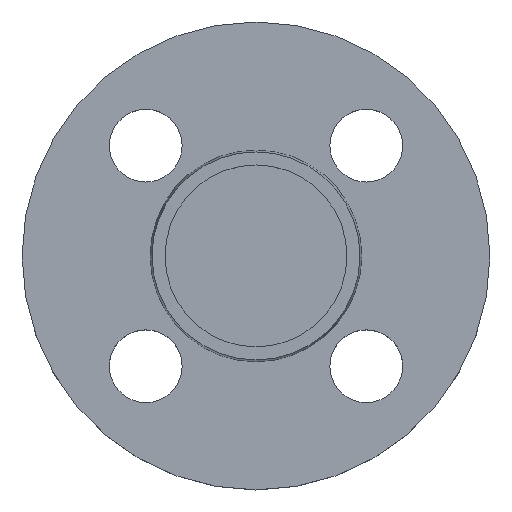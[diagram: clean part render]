
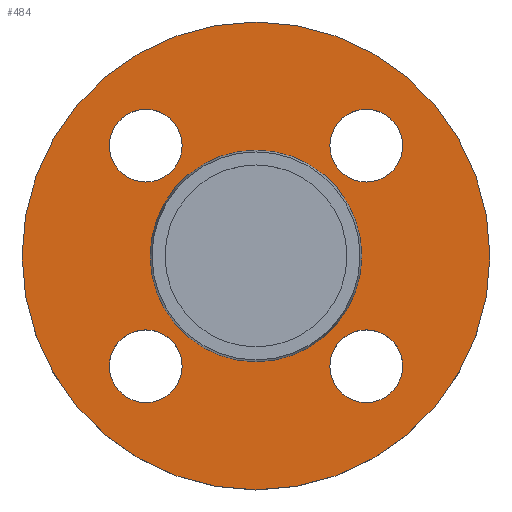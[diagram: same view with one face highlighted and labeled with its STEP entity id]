
A CAD part, top view. The second image highlights one B-rep face of the part: STEP entity #484.
In plain terms, the highlighted planar face has unit normal (0, 0, 1).
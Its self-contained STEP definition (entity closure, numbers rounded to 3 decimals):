
#1 = CIRCLE ( 'NONE', #7, 20.353 ) ;
#3 = EDGE_CURVE ( 'NONE', #359, #464, #243, .T. ) ;
#4 = CIRCLE ( 'NONE', #238, 7. ) ;
#7 = AXIS2_PLACEMENT_3D ( 'NONE', #614, #616, #617 ) ;
#17 = CIRCLE ( 'NONE', #202, 7. ) ;
#42 = DIRECTION ( 'NONE',  ( 1., 0., 0. ) ) ;
#45 = CARTESIAN_POINT ( 'NONE',  ( 21.213, -21.213, -2. ) ) ;
#51 = CARTESIAN_POINT ( 'NONE',  ( 21.213, 21.213, -2. ) ) ;
#52 = DIRECTION ( 'NONE',  ( 0., 0., -1. ) ) ;
#53 = DIRECTION ( 'NONE',  ( 1., 0., 0. ) ) ;
#54 = DIRECTION ( 'NONE',  ( 0., 0., -1. ) ) ;
#55 = CARTESIAN_POINT ( 'NONE',  ( -21.213, 21.213, -2. ) ) ;
#58 = DIRECTION ( 'NONE',  ( 0., 0., -1. ) ) ;
#60 = DIRECTION ( 'NONE',  ( 1., 0., 0. ) ) ;
#61 = CIRCLE ( 'NONE', #177, 7. ) ;
#77 = AXIS2_PLACEMENT_3D ( 'NONE', #45, #58, #60 ) ;
#87 = EDGE_CURVE ( 'NONE', #536, #380, #61, .T. ) ;
#89 = CARTESIAN_POINT ( 'NONE',  ( 28.213, -21.213, -2. ) ) ;
#92 = CARTESIAN_POINT ( 'NONE',  ( -45., 0., -2. ) ) ;
#93 = DIRECTION ( 'NONE',  ( 0., 0., -1. ) ) ;
#96 = CARTESIAN_POINT ( 'NONE',  ( -14.213, -21.213, -2. ) ) ;
#102 = EDGE_CURVE ( 'NONE', #362, #533, #156, .T. ) ;
#112 = EDGE_CURVE ( 'NONE', #530, #360, #275, .T. ) ;
#114 = FACE_BOUND ( 'NONE', #551, .T. ) ;
#115 = DIRECTION ( 'NONE',  ( 1., 0., 0. ) ) ;
#116 = FACE_BOUND ( 'NONE', #546, .T. ) ;
#118 = FACE_BOUND ( 'NONE', #529, .T. ) ;
#119 = FACE_BOUND ( 'NONE', #369, .T. ) ;
#120 = CIRCLE ( 'NONE', #621, 45. ) ;
#123 = FACE_BOUND ( 'NONE', #539, .T. ) ;
#125 = CARTESIAN_POINT ( 'NONE',  ( 20.353, 0., -2. ) ) ;
#127 = FACE_OUTER_BOUND ( 'NONE', #544, .T. ) ;
#132 = DIRECTION ( 'NONE',  ( 0., 0., 1. ) ) ;
#133 = PLANE ( 'NONE',  #260 ) ;
#135 = CARTESIAN_POINT ( 'NONE',  ( 14.213, 21.213, -2. ) ) ;
#137 = CARTESIAN_POINT ( 'NONE',  ( 0., 0., -2. ) ) ;
#139 = EDGE_CURVE ( 'NONE', #355, #553, #229, .T. ) ;
#141 = DIRECTION ( 'NONE',  ( -1., 0., 0. ) ) ;
#153 = EDGE_CURVE ( 'NONE', #553, #355, #1, .T. ) ;
#156 = CIRCLE ( 'NONE', #373, 45. ) ;
#157 = DIRECTION ( 'NONE',  ( 1., 0., 0. ) ) ;
#158 = AXIS2_PLACEMENT_3D ( 'NONE', #603, #605, #606 ) ;
#170 = EDGE_CURVE ( 'NONE', #360, #530, #463, .T. ) ;
#177 = AXIS2_PLACEMENT_3D ( 'NONE', #583, #584, #585 ) ;
#198 = AXIS2_PLACEMENT_3D ( 'NONE', #554, #555, #556 ) ;
#202 = AXIS2_PLACEMENT_3D ( 'NONE', #51, #52, #42 ) ;
#212 = CIRCLE ( 'NONE', #77, 7. ) ;
#221 = AXIS2_PLACEMENT_3D ( 'NONE', #627, #628, #629 ) ;
#229 = CIRCLE ( 'NONE', #158, 20.353 ) ;
#233 = AXIS2_PLACEMENT_3D ( 'NONE', #593, #594, #595 ) ;
#238 = AXIS2_PLACEMENT_3D ( 'NONE', #727, #728, #157 ) ;
#243 = CIRCLE ( 'NONE', #198, 7. ) ;
#258 = EDGE_CURVE ( 'NONE', #401, #409, #4, .T. ) ;
#260 = AXIS2_PLACEMENT_3D ( 'NONE', #125, #132, #115 ) ;
#266 = EDGE_CURVE ( 'NONE', #380, #536, #212, .T. ) ;
#267 = CARTESIAN_POINT ( 'NONE',  ( 20.353, 0., -2. ) ) ;
#271 = CARTESIAN_POINT ( 'NONE',  ( 28.213, 21.213, -2. ) ) ;
#272 = CARTESIAN_POINT ( 'NONE',  ( -28.213, -21.213, -2. ) ) ;
#274 = AXIS2_PLACEMENT_3D ( 'NONE', #55, #54, #53 ) ;
#275 = CIRCLE ( 'NONE', #233, 7. ) ;
#277 = CARTESIAN_POINT ( 'NONE',  ( 45., 0., -2. ) ) ;
#289 = CARTESIAN_POINT ( 'NONE',  ( 14.213, -21.213, -2. ) ) ;
#302 = CARTESIAN_POINT ( 'NONE',  ( -14.213, 21.213, -2. ) ) ;
#306 = CARTESIAN_POINT ( 'NONE',  ( -28.213, 21.213, -2. ) ) ;
#341 = CARTESIAN_POINT ( 'NONE',  ( -20.353, 0., -2. ) ) ;
#355 = VERTEX_POINT ( 'NONE', #267 ) ;
#359 = VERTEX_POINT ( 'NONE', #271 ) ;
#360 = VERTEX_POINT ( 'NONE', #272 ) ;
#362 = VERTEX_POINT ( 'NONE', #277 ) ;
#369 = EDGE_LOOP ( 'NONE', ( #443, #445 ) ) ;
#373 = AXIS2_PLACEMENT_3D ( 'NONE', #586, #587, #588 ) ;
#380 = VERTEX_POINT ( 'NONE', #289 ) ;
#382 = CIRCLE ( 'NONE', #274, 7. ) ;
#401 = VERTEX_POINT ( 'NONE', #302 ) ;
#409 = VERTEX_POINT ( 'NONE', #306 ) ;
#435 = ORIENTED_EDGE ( 'NONE', *, *, #87, .T. ) ;
#436 = ORIENTED_EDGE ( 'NONE', *, *, #266, .T. ) ;
#437 = ORIENTED_EDGE ( 'NONE', *, *, #112, .T. ) ;
#439 = ORIENTED_EDGE ( 'NONE', *, *, #170, .T. ) ;
#441 = ORIENTED_EDGE ( 'NONE', *, *, #258, .T. ) ;
#442 = ORIENTED_EDGE ( 'NONE', *, *, #693, .T. ) ;
#443 = ORIENTED_EDGE ( 'NONE', *, *, #3, .T. ) ;
#445 = ORIENTED_EDGE ( 'NONE', *, *, #710, .T. ) ;
#446 = ORIENTED_EDGE ( 'NONE', *, *, #153, .T. ) ;
#447 = ORIENTED_EDGE ( 'NONE', *, *, #139, .T. ) ;
#450 = ORIENTED_EDGE ( 'NONE', *, *, #102, .F. ) ;
#451 = ORIENTED_EDGE ( 'NONE', *, *, #519, .F. ) ;
#463 = CIRCLE ( 'NONE', #221, 7. ) ;
#464 = VERTEX_POINT ( 'NONE', #135 ) ;
#484 = ADVANCED_FACE ( 'NONE', ( #118, #123, #116, #119, #114, #127 ), #133, .T. ) ;
#519 = EDGE_CURVE ( 'NONE', #533, #362, #120, .T. ) ;
#529 = EDGE_LOOP ( 'NONE', ( #435, #436 ) ) ;
#530 = VERTEX_POINT ( 'NONE', #96 ) ;
#533 = VERTEX_POINT ( 'NONE', #92 ) ;
#536 = VERTEX_POINT ( 'NONE', #89 ) ;
#539 = EDGE_LOOP ( 'NONE', ( #437, #439 ) ) ;
#544 = EDGE_LOOP ( 'NONE', ( #450, #451 ) ) ;
#546 = EDGE_LOOP ( 'NONE', ( #441, #442 ) ) ;
#551 = EDGE_LOOP ( 'NONE', ( #446, #447 ) ) ;
#553 = VERTEX_POINT ( 'NONE', #341 ) ;
#554 = CARTESIAN_POINT ( 'NONE',  ( 21.213, 21.213, -2. ) ) ;
#555 = DIRECTION ( 'NONE',  ( 0., 0., -1. ) ) ;
#556 = DIRECTION ( 'NONE',  ( 1., 0., 0. ) ) ;
#583 = CARTESIAN_POINT ( 'NONE',  ( 21.213, -21.213, -2. ) ) ;
#584 = DIRECTION ( 'NONE',  ( 0., 0., -1. ) ) ;
#585 = DIRECTION ( 'NONE',  ( 1., 0., 0. ) ) ;
#586 = CARTESIAN_POINT ( 'NONE',  ( 0., 0., -2. ) ) ;
#587 = DIRECTION ( 'NONE',  ( 0., 0., -1. ) ) ;
#588 = DIRECTION ( 'NONE',  ( -1., 0., 0. ) ) ;
#593 = CARTESIAN_POINT ( 'NONE',  ( -21.213, -21.213, -2. ) ) ;
#594 = DIRECTION ( 'NONE',  ( 0., 0., -1. ) ) ;
#595 = DIRECTION ( 'NONE',  ( 1., 0., 0. ) ) ;
#603 = CARTESIAN_POINT ( 'NONE',  ( 0., 0., -2. ) ) ;
#605 = DIRECTION ( 'NONE',  ( 0., 0., -1. ) ) ;
#606 = DIRECTION ( 'NONE',  ( -1., 0., 0. ) ) ;
#614 = CARTESIAN_POINT ( 'NONE',  ( 0., 0., -2. ) ) ;
#616 = DIRECTION ( 'NONE',  ( 0., 0., -1. ) ) ;
#617 = DIRECTION ( 'NONE',  ( -1., 0., 0. ) ) ;
#621 = AXIS2_PLACEMENT_3D ( 'NONE', #137, #93, #141 ) ;
#627 = CARTESIAN_POINT ( 'NONE',  ( -21.213, -21.213, -2. ) ) ;
#628 = DIRECTION ( 'NONE',  ( 0., 0., -1. ) ) ;
#629 = DIRECTION ( 'NONE',  ( 1., 0., 0. ) ) ;
#693 = EDGE_CURVE ( 'NONE', #409, #401, #382, .T. ) ;
#710 = EDGE_CURVE ( 'NONE', #464, #359, #17, .T. ) ;
#727 = CARTESIAN_POINT ( 'NONE',  ( -21.213, 21.213, -2. ) ) ;
#728 = DIRECTION ( 'NONE',  ( 0., 0., -1. ) ) ;
